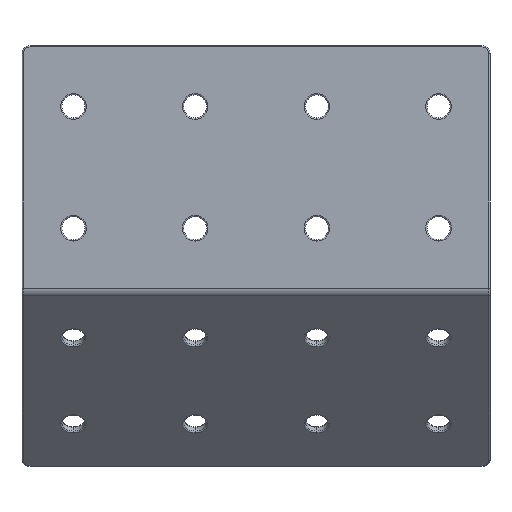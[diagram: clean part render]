
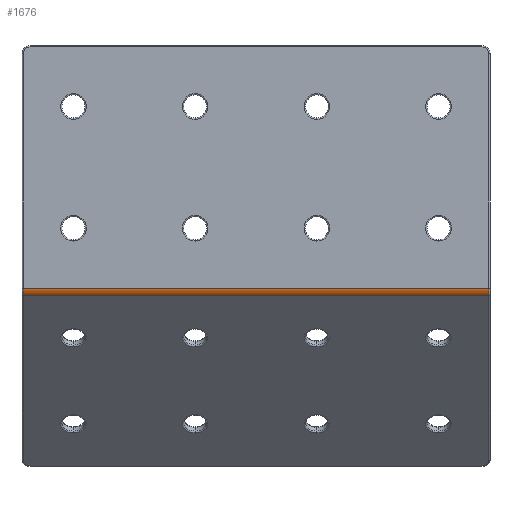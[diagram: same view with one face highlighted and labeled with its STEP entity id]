
A CAD part, front view. The second image highlights one B-rep face of the part: STEP entity #1676.
In plain terms, the highlighted cylindrical face has radius 3.8 mm (diameter 7.6 mm), a partial arc.
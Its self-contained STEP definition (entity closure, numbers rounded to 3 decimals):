
#81 = VECTOR ( 'NONE', #230, 1000. ) ;
#130 = DIRECTION ( 'NONE',  ( -1., 0., 0. ) ) ;
#195 = EDGE_CURVE ( 'NONE', #3832, #2311, #834, .T. ) ;
#230 = DIRECTION ( 'NONE',  ( -1., 0., 0. ) ) ;
#391 = ORIENTED_EDGE ( 'NONE', *, *, #1029, .T. ) ;
#460 = EDGE_CURVE ( 'NONE', #2621, #2533, #1021, .T. ) ;
#518 = CARTESIAN_POINT ( 'NONE',  ( 86., 0.8, 0.331 ) ) ;
#578 = ORIENTED_EDGE ( 'NONE', *, *, #195, .T. ) ;
#834 = LINE ( 'NONE', #1160, #81 ) ;
#899 = CARTESIAN_POINT ( 'NONE',  ( 86.5, 0.8, 0.331 ) ) ;
#1021 = LINE ( 'NONE', #3504, #2133 ) ;
#1029 = EDGE_CURVE ( 'NONE', #2621, #3832, #1138, .T. ) ;
#1098 = CARTESIAN_POINT ( 'NONE',  ( -86., -1.887, -2.356 ) ) ;
#1114 = CARTESIAN_POINT ( 'NONE',  ( -86., 0.8, 0.331 ) ) ;
#1138 = CIRCLE ( 'NONE', #3946, 3.8 ) ;
#1160 = CARTESIAN_POINT ( 'NONE',  ( 86.5, -3., 0.331 ) ) ;
#1461 = DIRECTION ( 'NONE',  ( -1., 0., 0. ) ) ;
#1676 = ADVANCED_FACE ( 'NONE', ( #3947 ), #2422, .T. ) ;
#1739 = CARTESIAN_POINT ( 'NONE',  ( 86., -1.887, -2.356 ) ) ;
#1742 = ORIENTED_EDGE ( 'NONE', *, *, #3010, .T. ) ;
#1786 = DIRECTION ( 'NONE',  ( 0., 0., -1. ) ) ;
#1956 = EDGE_LOOP ( 'NONE', ( #578, #1742, #3808, #391 ) ) ;
#2133 = VECTOR ( 'NONE', #130, 1000. ) ;
#2186 = AXIS2_PLACEMENT_3D ( 'NONE', #899, #1461, #3069 ) ;
#2311 = VERTEX_POINT ( 'NONE', #2526 ) ;
#2403 = DIRECTION ( 'NONE',  ( 0., 0., 1. ) ) ;
#2422 = CYLINDRICAL_SURFACE ( 'NONE', #2186, 3.8 ) ;
#2526 = CARTESIAN_POINT ( 'NONE',  ( -86., -3., 0.331 ) ) ;
#2533 = VERTEX_POINT ( 'NONE', #1098 ) ;
#2621 = VERTEX_POINT ( 'NONE', #1739 ) ;
#2689 = AXIS2_PLACEMENT_3D ( 'NONE', #1114, #3951, #2403 ) ;
#3010 = EDGE_CURVE ( 'NONE', #2311, #2533, #3931, .T. ) ;
#3016 = DIRECTION ( 'NONE',  ( -1., 0., 0. ) ) ;
#3069 = DIRECTION ( 'NONE',  ( 0., 0., 1. ) ) ;
#3504 = CARTESIAN_POINT ( 'NONE',  ( 86.5, -1.887, -2.356 ) ) ;
#3755 = CARTESIAN_POINT ( 'NONE',  ( 86., -3., 0.331 ) ) ;
#3808 = ORIENTED_EDGE ( 'NONE', *, *, #460, .F. ) ;
#3832 = VERTEX_POINT ( 'NONE', #3755 ) ;
#3931 = CIRCLE ( 'NONE', #2689, 3.8 ) ;
#3946 = AXIS2_PLACEMENT_3D ( 'NONE', #518, #3016, #1786 ) ;
#3947 = FACE_OUTER_BOUND ( 'NONE', #1956, .T. ) ;
#3951 = DIRECTION ( 'NONE',  ( 1., 0., 0. ) ) ;
